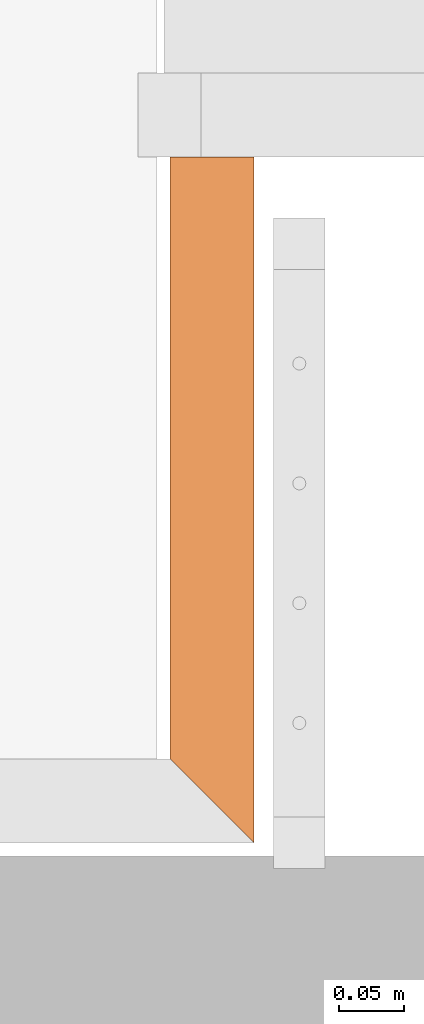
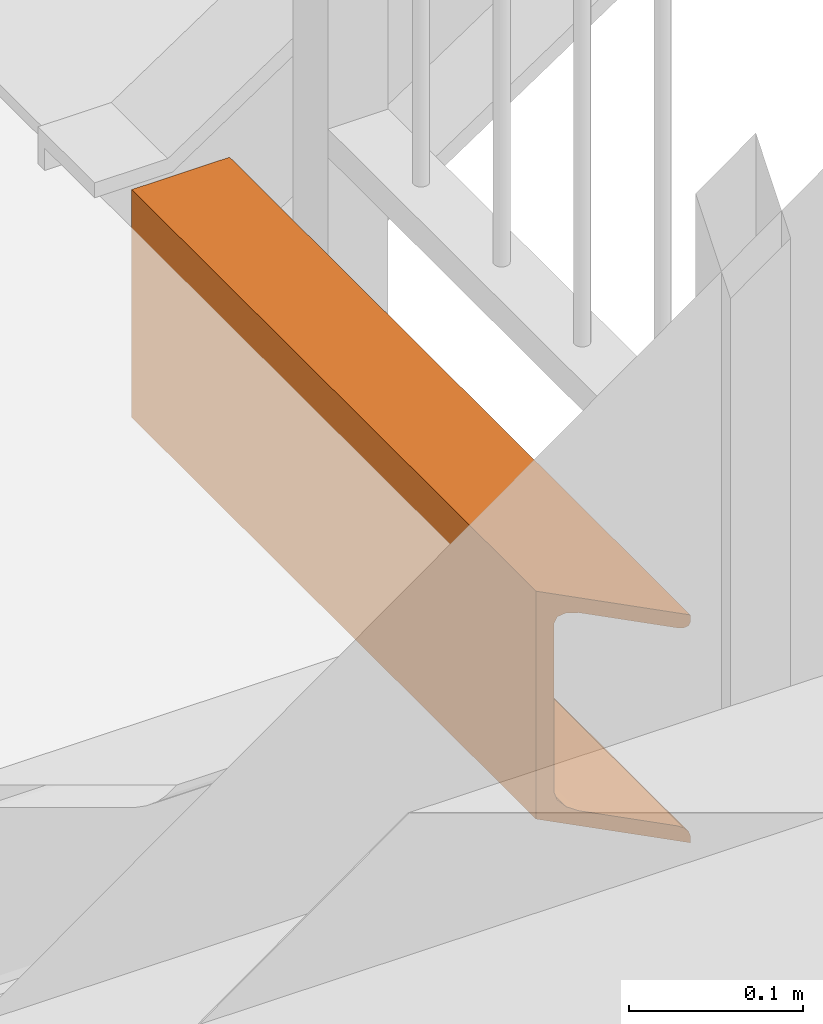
# One storey, part 117 of 117: 1 proxy.
"""IFC2X3 building model written with IfcOpenShell, lengths in millimetres."""

from ifc_helpers import new_model, entity, si_unit, converted_unit, derived_unit, money_unit, direction, frame, origin_with_axes, place, context, subcontext, project, spatial, faceted_brep, material, type_object, element, save


model = new_model("IFC2X3")

# Units and contexts
model_context = context("Model", 3, precision=0.01, world=origin_with_axes(), true_north=direction((0.0, 1.0)))
body_context = subcontext(model_context, "Body", "Model", "MODEL_VIEW")
ifc_project = project(units=[si_unit("LENGTHUNIT", "METRE", prefix="MILLI"), si_unit("AREAUNIT", "SQUARE_METRE"), si_unit("VOLUMEUNIT", "CUBIC_METRE"), converted_unit("PLANEANGLEUNIT", "DEGREE", entity("IfcPlaneAngleMeasure", 0.0174532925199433), si_unit("PLANEANGLEUNIT", "RADIAN"), dimensions=[0, 0, 0, 0, 0, 0, 0]), money_unit("EUR"), converted_unit("TIMEUNIT", "Year", entity("IfcTimeMeasure", 31557600.0), si_unit("TIMEUNIT", "SECOND"), dimensions=[0, 0, 1, 0, 0, 0, 0]), si_unit("MASSUNIT", "GRAM", prefix="KILO"), si_unit("THERMODYNAMICTEMPERATUREUNIT", "DEGREE_CELSIUS"), si_unit("LUMINOUSINTENSITYUNIT", "LUMEN"), si_unit("ENERGYUNIT", "JOULE", prefix="MEGA"), derived_unit("THERMALCONDUCTANCEUNIT", [(si_unit("POWERUNIT", "WATT"), 1), (si_unit("LENGTHUNIT", "METRE"), -1), (si_unit("THERMODYNAMICTEMPERATUREUNIT", "KELVIN"), -1)]), derived_unit("SPECIFICHEATCAPACITYUNIT", [(si_unit("ENERGYUNIT", "JOULE"), 1), (si_unit("MASSUNIT", "GRAM", prefix="KILO"), -1), (si_unit("THERMODYNAMICTEMPERATUREUNIT", "KELVIN"), -1)]), derived_unit("MASSDENSITYUNIT", [(si_unit("MASSUNIT", "GRAM", prefix="KILO"), 1), (si_unit("VOLUMEUNIT", "CUBIC_METRE"), -1)])], contexts=[model_context])

# Site, building, storey
site_placement = place(None, origin_with_axes())
site = spatial("IfcSite", under=ifc_project, at=site_placement, Name="Site", CompositionType="ELEMENT")
building_placement = place(site_placement, origin_with_axes())
building = spatial("IfcBuilding", under=site, at=building_placement, Name="Naam gebouw", CompositionType="ELEMENT")
storey_placement = place(building_placement, frame((0.0, 0.0, 4150.0), z_axis=(0.0, 0.0, 1.0), x_axis=(1.0, 0.0, 0.0)))
storey = spatial("IfcBuildingStorey", under=building, at=storey_placement, Name="1e verdieping N", CompositionType="ELEMENT", Elevation=4150.0)

# Proxy
ifc_material = material(Name="Metaal - Staal AFW")
building_element_proxy_type = type_object("IfcBuildingElementProxyType", Name="UPN balk 27", PredefinedType="NOTDEFINED")
proxy_placement = place(storey_placement, frame((56167.15277777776, 20698.4124251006, -147.3000000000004), z_axis=(0.0, 0.0, 1.0), x_axis=(0.0, -1.0, 0.0)))
element("IfcBuildingElementProxy", 1, at=proxy_placement, inside=storey, type_object=building_element_proxy_type, material=ifc_material, Name="_Boom-x", context=body_context, shape_type="Brep", body=[
    faceted_brep([(0.0, 0.0, 160.0), (32.5, 32.5, 160.0), (-497.4999999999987, 32.49999999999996, 160.0), (-497.4999999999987, -32.50000000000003, 160.0), (-32.49999999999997, -32.5, 160.0), (0.0, 0.0, 149.5), (27.00000000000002, 27.00000000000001, 149.5), (29.75000000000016, 29.75000000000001, 150.2368602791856), (31.76313972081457, 31.76313972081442, 152.25), (32.5, 32.5, 155.0), (-32.49999999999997, -32.5, 0.0), (0.0, 0.0, 0.0), (32.5, 32.5, 0.0), (32.5, 32.5, 4.99999999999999), (31.76313972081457, 31.76313972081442, 7.749999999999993), (29.75000000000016, 29.75000000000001, 9.763139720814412), (27.00000000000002, 27.00000000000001, 10.49999999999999), (0.0, 0.0, 10.50000000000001), (-14.49999999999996, -14.5, 10.50000000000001), (-19.74999999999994, -19.75, 11.9067332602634), (-23.5932667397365, -23.59326673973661, 15.75), (-24.99999999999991, -25.0, 21.0), (-24.99999999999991, -25.0, 139.0), (-23.5932667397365, -23.59326673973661, 144.25), (-19.74999999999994, -19.75, 148.0932667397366), (-14.49999999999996, -14.5, 149.5), (-497.4999999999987, 32.49999999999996, 155.0), (-497.4999999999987, 29.74999999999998, 150.2368602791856), (-497.4999999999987, 26.99999999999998, 149.5), (-497.4999999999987, -14.50000000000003, 149.5000000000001), (-497.4999999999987, -19.75000000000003, 148.0932667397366), (-497.4999999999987, -23.59326673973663, 144.2500000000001), (-497.4999999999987, -25.00000000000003, 139.0), (-497.4999999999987, -25.00000000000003, 21.00000000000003), (-497.4999999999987, -23.59326673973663, 15.75000000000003), (-497.4999999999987, -19.75000000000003, 11.90673326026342), (-497.4999999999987, -14.50000000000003, 10.50000000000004), (-497.4999999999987, 26.99999999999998, 10.50000000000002), (-497.4999999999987, 29.74999999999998, 9.76313972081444), (-497.4999999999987, 31.76313972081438, 7.75000000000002), (-497.4999999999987, 32.49999999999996, 5.000000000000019), (-497.4999999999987, 32.49999999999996, 0.0), (-497.4999999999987, -32.50000000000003, 0.0), (-497.4999999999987, 31.76313972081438, 152.25)], [[[0, 1, 2, 3, 4]], [[5, 6, 7, 8, 9, 1, 0, 4, 10, 11, 12, 13, 14, 15, 16, 17, 18, 19, 20, 21, 22, 23, 24, 25]], [[1, 9, 26, 2]], [[27, 28, 29, 30, 31, 32, 33, 34, 35, 36, 37, 38, 39, 40, 41, 42, 3, 2, 26, 43]], [[4, 3, 42, 10]], [[25, 29, 28, 6, 5]], [[7, 6, 28, 27]], [[8, 7, 27, 43]], [[9, 8, 43, 26]], [[10, 42, 41, 12, 11]], [[13, 12, 41, 40]], [[14, 13, 40, 39]], [[15, 14, 39, 38]], [[16, 15, 38, 37]], [[17, 16, 37, 36, 18]], [[18, 36, 35, 19]], [[19, 35, 34, 20]], [[20, 34, 33, 21]], [[21, 33, 32, 22]], [[22, 32, 31, 23]], [[23, 31, 30, 24]], [[24, 30, 29, 25]]]),
])

save(model, "model.ifc")
